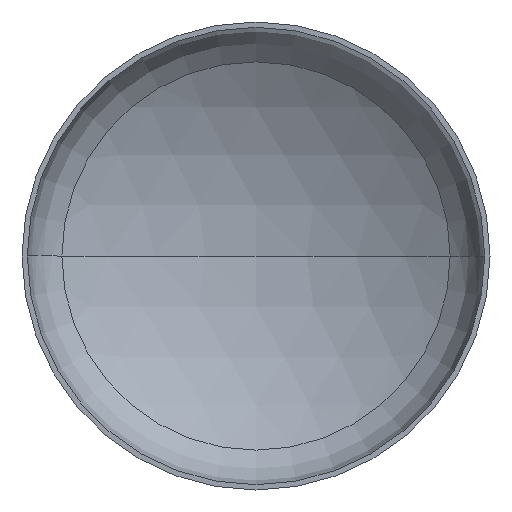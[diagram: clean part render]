
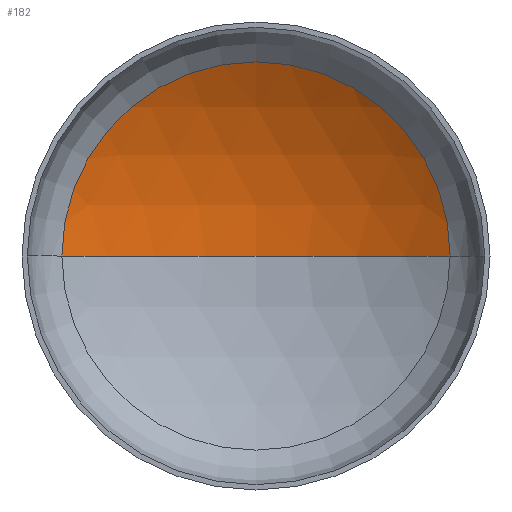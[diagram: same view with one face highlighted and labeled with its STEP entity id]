
A CAD part, front view. The second image highlights one B-rep face of the part: STEP entity #182.
In plain terms, the highlighted spherical face has radius 1200 mm.
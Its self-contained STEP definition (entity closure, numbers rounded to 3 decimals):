
#1 = DIRECTION ( 'NONE',  ( 0., 0., -1. ) ) ;
#3 = DIRECTION ( 'NONE',  ( 0., 0., 1. ) ) ;
#7 = CARTESIAN_POINT ( 'NONE',  ( 0., -774.392, 0. ) ) ;
#20 = CARTESIAN_POINT ( 'NONE',  ( 0., 425.608, 0. ) ) ;
#23 = AXIS2_PLACEMENT_3D ( 'NONE', #220, #235, #233 ) ;
#41 = AXIS2_PLACEMENT_3D ( 'NONE', #7, #3, #290 ) ;
#43 = AXIS2_PLACEMENT_3D ( 'NONE', #176, #1, #256 ) ;
#46 = AXIS2_PLACEMENT_3D ( 'NONE', #143, #145, #149 ) ;
#79 = CARTESIAN_POINT ( 'NONE',  ( 622.268, 251.66, 0. ) ) ;
#101 = EDGE_CURVE ( 'NONE', #317, #125, #409, .T. ) ;
#102 = EDGE_CURVE ( 'NONE', #265, #317, #119, .T. ) ;
#106 = EDGE_CURVE ( 'NONE', #265, #125, #338, .T. ) ;
#119 = CIRCLE ( 'NONE', #43, 1200. ) ;
#125 = VERTEX_POINT ( 'NONE', #266 ) ;
#143 = CARTESIAN_POINT ( 'NONE',  ( 0., 251.66, 0. ) ) ;
#145 = DIRECTION ( 'NONE',  ( 0., -1., 0. ) ) ;
#149 = DIRECTION ( 'NONE',  ( 1., 0., 0. ) ) ;
#176 = CARTESIAN_POINT ( 'NONE',  ( 0., -774.392, 0. ) ) ;
#182 = ADVANCED_FACE ( 'NONE', ( #332 ), #185, .F. ) ;
#185 = SPHERICAL_SURFACE ( 'NONE', #23, 1200. ) ;
#191 = ORIENTED_EDGE ( 'NONE', *, *, #101, .T. ) ;
#220 = CARTESIAN_POINT ( 'NONE',  ( 0., -774.392, 0. ) ) ;
#233 = DIRECTION ( 'NONE',  ( -1., 0., 0. ) ) ;
#235 = DIRECTION ( 'NONE',  ( 0., 0., -1. ) ) ;
#256 = DIRECTION ( 'NONE',  ( -1., 0., 0. ) ) ;
#265 = VERTEX_POINT ( 'NONE', #20 ) ;
#266 = CARTESIAN_POINT ( 'NONE',  ( -622.268, 251.66, 0. ) ) ;
#290 = DIRECTION ( 'NONE',  ( 1., 0., 0. ) ) ;
#317 = VERTEX_POINT ( 'NONE', #79 ) ;
#329 = ORIENTED_EDGE ( 'NONE', *, *, #106, .F. ) ;
#332 = FACE_OUTER_BOUND ( 'NONE', #385, .T. ) ;
#338 = CIRCLE ( 'NONE', #41, 1200. ) ;
#342 = ORIENTED_EDGE ( 'NONE', *, *, #102, .T. ) ;
#385 = EDGE_LOOP ( 'NONE', ( #329, #342, #191 ) ) ;
#409 = CIRCLE ( 'NONE', #46, 622.268 ) ;
